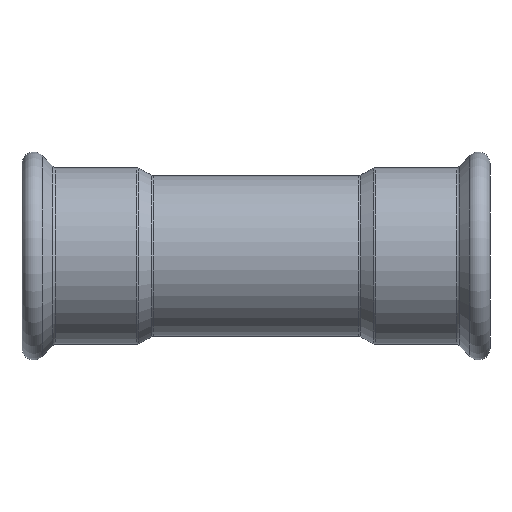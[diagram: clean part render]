
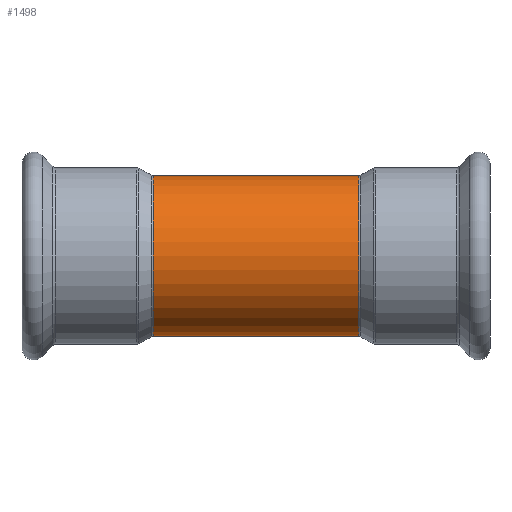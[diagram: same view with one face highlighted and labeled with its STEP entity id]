
A CAD part, front view. The second image highlights one B-rep face of the part: STEP entity #1498.
In plain terms, the highlighted cylindrical face has radius 20.65 mm (diameter 41.3 mm), a partial arc.
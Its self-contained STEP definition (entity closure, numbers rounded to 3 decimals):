
#27 = CARTESIAN_POINT ( 'NONE',  ( 0., 0., 0. ) ) ;
#294 = AXIS2_PLACEMENT_3D ( 'NONE', #2284, #3997, #1790 ) ;
#493 = EDGE_LOOP ( 'NONE', ( #1364, #3826, #860, #3103 ) ) ;
#572 = AXIS2_PLACEMENT_3D ( 'NONE', #27, #3963, #2352 ) ;
#646 = LINE ( 'NONE', #1235, #1707 ) ;
#677 = CARTESIAN_POINT ( 'NONE',  ( 0., 0., 20.65 ) ) ;
#687 = DIRECTION ( 'NONE',  ( 0., 0., 1. ) ) ;
#744 = VECTOR ( 'NONE', #3592, 1000. ) ;
#821 = EDGE_CURVE ( 'NONE', #1612, #3270, #3672, .T. ) ;
#860 = ORIENTED_EDGE ( 'NONE', *, *, #821, .T. ) ;
#1130 = EDGE_CURVE ( 'NONE', #2058, #3975, #646, .T. ) ;
#1137 = CIRCLE ( 'NONE', #294, 20.65 ) ;
#1235 = CARTESIAN_POINT ( 'NONE',  ( 0., 0., -20.65 ) ) ;
#1364 = ORIENTED_EDGE ( 'NONE', *, *, #1130, .F. ) ;
#1498 = ADVANCED_FACE ( 'NONE', ( #2998 ), #2413, .T. ) ;
#1603 = CARTESIAN_POINT ( 'NONE',  ( 26.377, 0., -20.65 ) ) ;
#1612 = VERTEX_POINT ( 'NONE', #3238 ) ;
#1707 = VECTOR ( 'NONE', #2255, 1000. ) ;
#1716 = EDGE_CURVE ( 'NONE', #2058, #1612, #1137, .T. ) ;
#1790 = DIRECTION ( 'NONE',  ( 0., 0., 1. ) ) ;
#1897 = AXIS2_PLACEMENT_3D ( 'NONE', #2005, #3338, #687 ) ;
#2005 = CARTESIAN_POINT ( 'NONE',  ( -26.377, 0., 0. ) ) ;
#2058 = VERTEX_POINT ( 'NONE', #1603 ) ;
#2255 = DIRECTION ( 'NONE',  ( -1., 0., 0. ) ) ;
#2284 = CARTESIAN_POINT ( 'NONE',  ( 26.377, 0., 0. ) ) ;
#2352 = DIRECTION ( 'NONE',  ( 0., 0., 1. ) ) ;
#2413 = CYLINDRICAL_SURFACE ( 'NONE', #572, 20.65 ) ;
#2998 = FACE_OUTER_BOUND ( 'NONE', #493, .T. ) ;
#3085 = CIRCLE ( 'NONE', #1897, 20.65 ) ;
#3103 = ORIENTED_EDGE ( 'NONE', *, *, #3300, .T. ) ;
#3238 = CARTESIAN_POINT ( 'NONE',  ( 26.377, 0., 20.65 ) ) ;
#3270 = VERTEX_POINT ( 'NONE', #3659 ) ;
#3300 = EDGE_CURVE ( 'NONE', #3270, #3975, #3085, .T. ) ;
#3338 = DIRECTION ( 'NONE',  ( 1., 0., 0. ) ) ;
#3538 = CARTESIAN_POINT ( 'NONE',  ( -26.377, 0., -20.65 ) ) ;
#3592 = DIRECTION ( 'NONE',  ( -1., 0., 0. ) ) ;
#3659 = CARTESIAN_POINT ( 'NONE',  ( -26.377, 0., 20.65 ) ) ;
#3672 = LINE ( 'NONE', #677, #744 ) ;
#3826 = ORIENTED_EDGE ( 'NONE', *, *, #1716, .T. ) ;
#3963 = DIRECTION ( 'NONE',  ( -1., 0., 0. ) ) ;
#3975 = VERTEX_POINT ( 'NONE', #3538 ) ;
#3997 = DIRECTION ( 'NONE',  ( -1., 0., 0. ) ) ;
